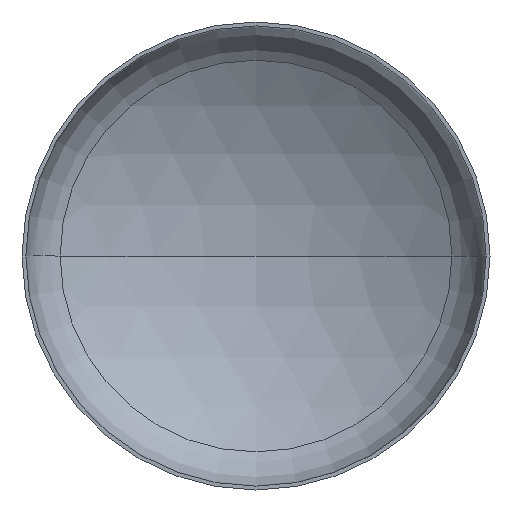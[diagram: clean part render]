
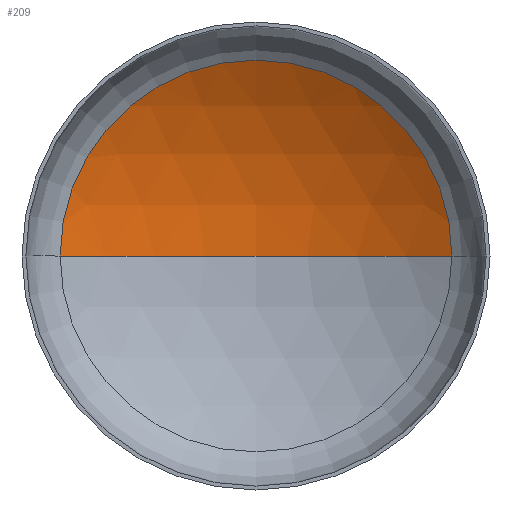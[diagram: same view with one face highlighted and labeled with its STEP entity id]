
A CAD part, front view. The second image highlights one B-rep face of the part: STEP entity #209.
In plain terms, the highlighted spherical face has radius 6400 mm.
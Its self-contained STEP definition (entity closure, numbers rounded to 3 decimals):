
#27 = AXIS2_PLACEMENT_3D ( 'NONE', #257, #263, #183 ) ;
#33 = VERTEX_POINT ( 'NONE', #292 ) ;
#47 = ORIENTED_EDGE ( 'NONE', *, *, #88, .T. ) ;
#57 = AXIS2_PLACEMENT_3D ( 'NONE', #195, #196, #312 ) ;
#58 = ORIENTED_EDGE ( 'NONE', *, *, #90, .T. ) ;
#61 = AXIS2_PLACEMENT_3D ( 'NONE', #318, #311, #308 ) ;
#62 = AXIS2_PLACEMENT_3D ( 'NONE', #317, #315, #313 ) ;
#88 = EDGE_CURVE ( 'NONE', #33, #334, #371, .T. ) ;
#90 = EDGE_CURVE ( 'NONE', #384, #33, #321, .T. ) ;
#94 = EDGE_CURVE ( 'NONE', #384, #334, #189, .T. ) ;
#102 = CARTESIAN_POINT ( 'NONE',  ( -3347.311, 1168.356, 0. ) ) ;
#126 = ORIENTED_EDGE ( 'NONE', *, *, #94, .F. ) ;
#127 = CARTESIAN_POINT ( 'NONE',  ( 0., 2113.495, 0. ) ) ;
#144 = EDGE_LOOP ( 'NONE', ( #126, #58, #47 ) ) ;
#157 = FACE_OUTER_BOUND ( 'NONE', #144, .T. ) ;
#183 = DIRECTION ( 'NONE',  ( -1., 0., 0. ) ) ;
#189 = CIRCLE ( 'NONE', #57, 6400. ) ;
#195 = CARTESIAN_POINT ( 'NONE',  ( 0., -4286.505, 0. ) ) ;
#196 = DIRECTION ( 'NONE',  ( 0., 0., 1. ) ) ;
#209 = ADVANCED_FACE ( 'NONE', ( #157 ), #405, .F. ) ;
#257 = CARTESIAN_POINT ( 'NONE',  ( 0., -4286.505, 0. ) ) ;
#263 = DIRECTION ( 'NONE',  ( 0., 0., -1. ) ) ;
#292 = CARTESIAN_POINT ( 'NONE',  ( 3347.311, 1168.356, 0. ) ) ;
#308 = DIRECTION ( 'NONE',  ( -1., 0., 0. ) ) ;
#311 = DIRECTION ( 'NONE',  ( 0., 0., -1. ) ) ;
#312 = DIRECTION ( 'NONE',  ( 1., 0., 0. ) ) ;
#313 = DIRECTION ( 'NONE',  ( 1., 0., 0. ) ) ;
#315 = DIRECTION ( 'NONE',  ( 0., -1., 0. ) ) ;
#317 = CARTESIAN_POINT ( 'NONE',  ( 0., 1168.356, 0. ) ) ;
#318 = CARTESIAN_POINT ( 'NONE',  ( 0., -4286.505, 0. ) ) ;
#321 = CIRCLE ( 'NONE', #61, 6400. ) ;
#334 = VERTEX_POINT ( 'NONE', #102 ) ;
#371 = CIRCLE ( 'NONE', #62, 3347.311 ) ;
#384 = VERTEX_POINT ( 'NONE', #127 ) ;
#405 = SPHERICAL_SURFACE ( 'NONE', #27, 6400. ) ;
